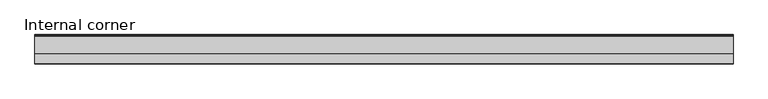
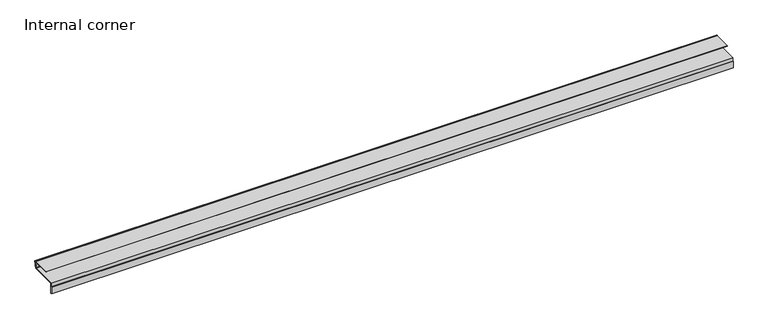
"""IFC4 building model written with IfcOpenShell, lengths in millimetres: beam geometry, TE-H-05_02_Internal corner i_BEAM : Internal corner."""

from ifc_helpers import new_model, si_unit, frame, origin, place, context, project, spatial, polyline, outline, extrude, source, transform, mapped, element, save


def internal_corner_5e0b01c1(model_context):
    return source(origin(), model_context, "Body", "SweptSolid", [
        extrude(outline(polyline([(80.4617197, -2.4), (30.9830098, -2.4), (30.9830098, -1.6), (81.5043, -1.6), (77.4870945, -16.592415), (76.7143538, -16.3853598), (80.4617197, -2.4)])), frame((-970.1246316, 0.0, 0.0), z_axis=(1.0, 0.0, 0.0), x_axis=(0.0, 1.0, 0.0)), (0.0, 0.0, 1.0), 1970.1246316),
        extrude(outline(polyline([(77.1994161, -18.4469826), (81.9616865, -0.6739474), (84.6662789, -1.3986408), (79.3069308, -21.4), (4.4, -21.4), (4.4, -51.4), (1.6, -51.4), (1.6, -31.0), (2.4, -31.0), (2.4, -50.6), (3.6, -50.6), (3.6, -20.6), (78.6930692, -20.6), (83.686483, -1.9643262), (82.527372, -1.6537433), (77.9721568, -18.6540379), (77.1994161, -18.4469826)])), frame((-970.1246316, 0.0, 0.0), z_axis=(1.0, 0.0, 0.0), x_axis=(0.0, 1.0, 0.0)), (0.0, 0.0, 1.0), 1970.1246316),
    ])


if __name__ == "__main__":
    model = new_model("IFC4")
    model_context = context("Model", 3, world=origin())
    ifc_project = project(units=[si_unit("LENGTHUNIT", "METRE", prefix="MILLI")], contexts=[model_context])
    site = spatial("IfcSite", under=ifc_project)
    building = spatial("IfcBuilding", under=site)
    placement = place(None, origin())
    internal_corner_shape = internal_corner_5e0b01c1(model_context)
    element("IfcBeam", 1, ObjectType="TE-H-05_02_Internal corner i_BEAM : Internal corner", at=placement, inside=building, context=model_context, shape_type="MappedRepresentation", body=[
        mapped(internal_corner_shape, transform((0.0, 0.0, 0.0), x_axis=(1.0, 0.0, 0.0), y_axis=(0.0, 1.0, 0.0), z_axis=(0.0, 0.0, 1.0))),
    ])
    save(model, "model.ifc")
